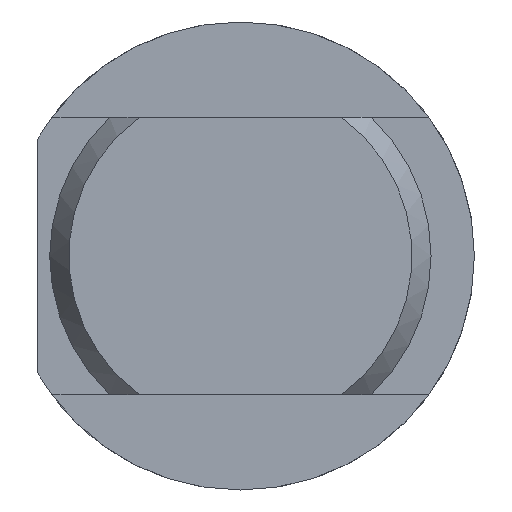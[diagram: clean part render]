
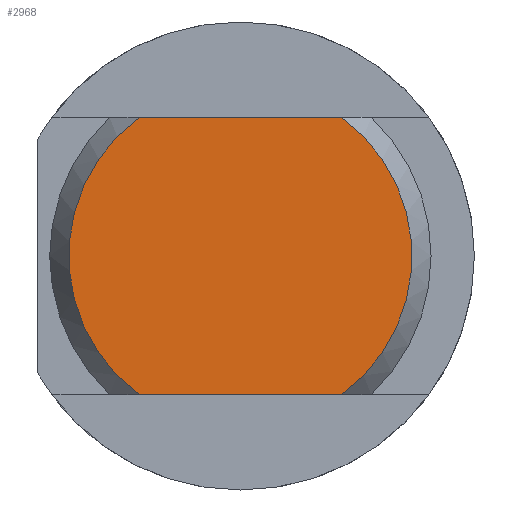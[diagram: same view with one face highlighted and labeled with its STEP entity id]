
A CAD part, left-side view. The second image highlights one B-rep face of the part: STEP entity #2968.
In plain terms, the highlighted planar face has unit normal (-1, 0, 0).
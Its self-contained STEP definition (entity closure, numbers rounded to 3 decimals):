
#60 = EDGE_CURVE ( 'NONE', #620, #1186, #629, .T. ) ;
#90 = CARTESIAN_POINT ( 'NONE',  ( -40., 0., 0. ) ) ;
#384 = DIRECTION ( 'NONE',  ( -1., 0., 0. ) ) ;
#620 = VERTEX_POINT ( 'NONE', #2869 ) ;
#629 = LINE ( 'NONE', #639, #1371 ) ;
#639 = CARTESIAN_POINT ( 'NONE',  ( -40., 11.7, 8. ) ) ;
#662 = DIRECTION ( 'NONE',  ( 0., 0., -1. ) ) ;
#678 = CARTESIAN_POINT ( 'NONE',  ( -40., 5.832, -8. ) ) ;
#863 = LINE ( 'NONE', #1069, #2716 ) ;
#978 = CARTESIAN_POINT ( 'NONE',  ( -40., 0., 0. ) ) ;
#1009 = ORIENTED_EDGE ( 'NONE', *, *, #1864, .F. ) ;
#1022 = ORIENTED_EDGE ( 'NONE', *, *, #60, .T. ) ;
#1069 = CARTESIAN_POINT ( 'NONE',  ( -40., 11.7, -8. ) ) ;
#1073 = AXIS2_PLACEMENT_3D ( 'NONE', #2126, #3154, #662 ) ;
#1100 = EDGE_CURVE ( 'NONE', #1186, #2024, #3011, .T. ) ;
#1167 = EDGE_LOOP ( 'NONE', ( #1022, #1752, #2280, #1009 ) ) ;
#1186 = VERTEX_POINT ( 'NONE', #1216 ) ;
#1216 = CARTESIAN_POINT ( 'NONE',  ( -40., 5.832, 8. ) ) ;
#1274 = CIRCLE ( 'NONE', #1505, 9.9 ) ;
#1371 = VECTOR ( 'NONE', #1380, 1000. ) ;
#1375 = CARTESIAN_POINT ( 'NONE',  ( -40., -5.832, -8. ) ) ;
#1380 = DIRECTION ( 'NONE',  ( 0., 1., 0. ) ) ;
#1505 = AXIS2_PLACEMENT_3D ( 'NONE', #978, #1713, #1961 ) ;
#1565 = PLANE ( 'NONE',  #2243 ) ;
#1573 = FACE_OUTER_BOUND ( 'NONE', #1167, .T. ) ;
#1713 = DIRECTION ( 'NONE',  ( 1., 0., 0. ) ) ;
#1752 = ORIENTED_EDGE ( 'NONE', *, *, #1100, .T. ) ;
#1775 = EDGE_CURVE ( 'NONE', #2024, #3105, #863, .T. ) ;
#1819 = DIRECTION ( 'NONE',  ( 0., -1., 0. ) ) ;
#1864 = EDGE_CURVE ( 'NONE', #620, #3105, #1274, .T. ) ;
#1961 = DIRECTION ( 'NONE',  ( 0., 1., 0. ) ) ;
#2024 = VERTEX_POINT ( 'NONE', #678 ) ;
#2126 = CARTESIAN_POINT ( 'NONE',  ( -40., 0., 0. ) ) ;
#2243 = AXIS2_PLACEMENT_3D ( 'NONE', #90, #384, #2624 ) ;
#2280 = ORIENTED_EDGE ( 'NONE', *, *, #1775, .T. ) ;
#2624 = DIRECTION ( 'NONE',  ( 0., 0., 1. ) ) ;
#2716 = VECTOR ( 'NONE', #1819, 1000. ) ;
#2869 = CARTESIAN_POINT ( 'NONE',  ( -40., -5.832, 8. ) ) ;
#2968 = ADVANCED_FACE ( 'NONE', ( #1573 ), #1565, .T. ) ;
#3011 = CIRCLE ( 'NONE', #1073, 9.9 ) ;
#3105 = VERTEX_POINT ( 'NONE', #1375 ) ;
#3154 = DIRECTION ( 'NONE',  ( -1., 0., 0. ) ) ;
